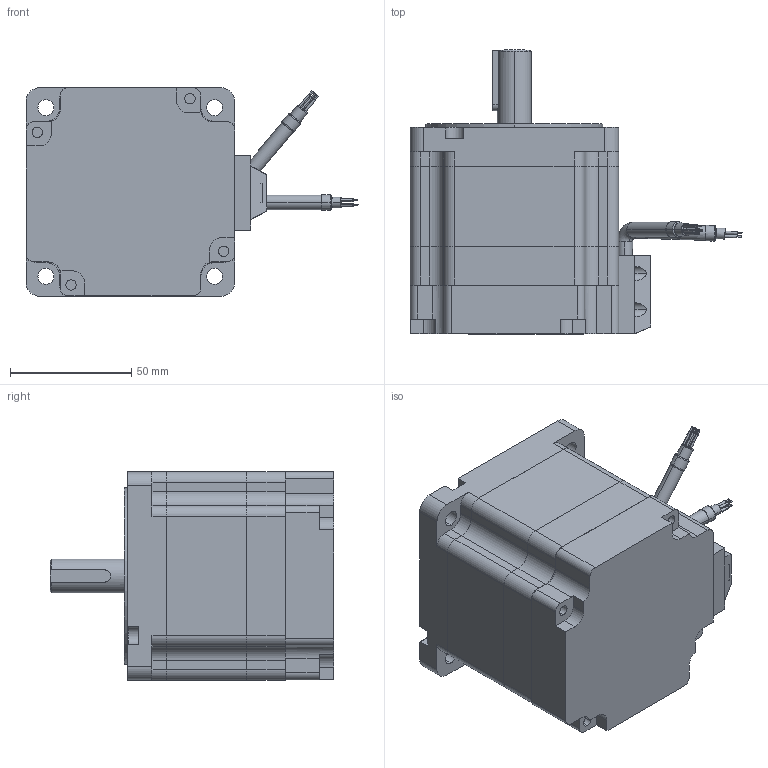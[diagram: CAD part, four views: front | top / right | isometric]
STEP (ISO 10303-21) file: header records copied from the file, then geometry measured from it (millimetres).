
FILE_DESCRIPTION (( 'STEP AP214' ), '1' );
FILE_NAME ('86HS265-6004E-XXX.STEP', '2024-03-19T08:36:47', ( 'MM' ), ( 'Microsoft' ), 'SwSTEP 2.0', 'SolidWorks 2024', '' );
FILE_SCHEMA (( 'AUTOMOTIVE_DESIGN' ));
Length unit declared in the file: millimetre
Products named in the file (1): 86HS265-6004E-XXX
Bounding box: 136.87 x 117 x 86 mm (x, y, z)
Volume: 505582 mm3; surface area: 77000.1 mm2
Topology: 4 solids, 4 shells, 412 faces, 1089 edges, 712 vertices
Faces by surface type: cylinder 196, plane 179, torus 22, cone 8, bspline 7
Entity records: 13290 total; most frequent: CARTESIAN_POINT 2537, DIRECTION 2353, ORIENTED_EDGE 2178, EDGE_CURVE 1089, AXIS2_PLACEMENT_3D 876, VERTEX_POINT 712, VECTOR 601, LINE 601
